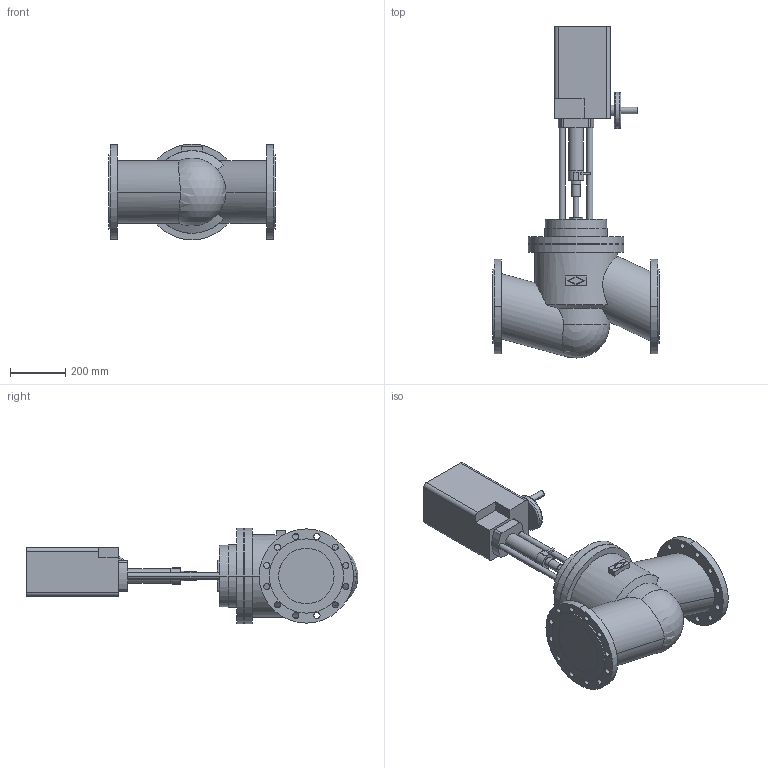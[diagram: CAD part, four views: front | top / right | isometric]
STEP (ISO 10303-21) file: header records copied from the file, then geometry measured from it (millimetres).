
FILE_DESCRIPTION( ( '' ), '1' );
FILE_NAME( 'F:/DE-SHS/TB/OR/04-Sonstiges/daten/files_3d/440-441/440-PN16-PREMIO/c000005439.stp', '2014-07-23T10:57:35', ( '' ), ( '' ), ' ', ' ', ' ' );
FILE_SCHEMA( ( 'CONFIG_CONTROL_DESIGN' ) );
Length unit declared in the file: millimetre
Products named in the file (2): 1; 2
Bounding box: 600 x 1197.11 x 345 mm (x, y, z)
Volume: 59059337.6 mm3; surface area: 1615214.9 mm2
Topology: 2 solids, 2 shells, 194 faces, 493 edges, 328 vertices
Faces by surface type: cylinder 112, plane 75, torus 4, cone 2, sphere 1
Entity records: 6716 total; most frequent: CARTESIAN_POINT 1611, DIRECTION 1122, ORIENTED_EDGE 982, EDGE_CURVE 491, AXIS2_PLACEMENT_3D 449, VERTEX_POINT 328, EDGE_LOOP 269, CIRCLE 249
